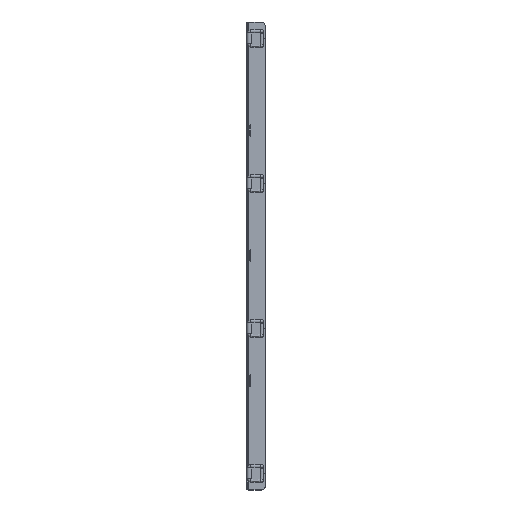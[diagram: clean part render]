
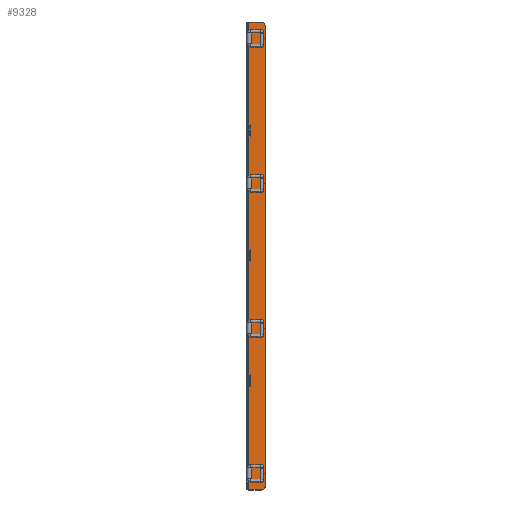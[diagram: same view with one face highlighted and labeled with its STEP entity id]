
A CAD part, top view. The second image highlights one B-rep face of the part: STEP entity #9328.
In plain terms, the highlighted free-form (B-spline) face has degree [1, 1] with [2, 2] control points.
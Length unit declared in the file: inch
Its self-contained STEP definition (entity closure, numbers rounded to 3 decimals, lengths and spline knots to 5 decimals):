
#8486=CARTESIAN_POINT('V127',(73.63562,98.20377,
   -23.57341));
#8487=VERTEX_POINT('V127',#8486);
#8488=CARTESIAN_POINT('E187',(73.63562,98.20377,
   -23.57341));
#8489=CARTESIAN_POINT('E187',(73.63562,98.31202,
   -23.57341));
#8490=CARTESIAN_POINT('E187',(73.72937,98.2579,
   -23.57341));
#8491=CARTESIAN_POINT('E187',(73.82312,98.20377,
   -23.57341));
#8492=CARTESIAN_POINT('E187',(73.72937,98.14964,
   -23.57341));
#8493=CARTESIAN_POINT('E187',(73.63562,98.09552,
   -23.57341));
#8494=CARTESIAN_POINT('E187',(73.63562,98.20377,
   -23.57341));
#8502=(BOUNDED_CURVE()B_SPLINE_CURVE(2,(#8488,#8489,#8490,#8491,
   #8492,#8493,#8494),.CIRCULAR_ARC.,.T.,.U.)
   B_SPLINE_CURVE_WITH_KNOTS((3,2,2,3),(0.0,0.33333,
   0.66667,1.0),.UNSPECIFIED.)CURVE()
   GEOMETRIC_REPRESENTATION_ITEM()RATIONAL_B_SPLINE_CURVE((1.0,
   0.5,1.0,0.5,1.0,0.5,1.0)
   )REPRESENTATION_ITEM('E187'));
#8503=EDGE_CURVE('E187',#8487,#8487,#8502,.T.);
#8564=CARTESIAN_POINT('V128',(73.63562,88.28677,
   -23.57341));
#8565=VERTEX_POINT('V128',#8564);
#8566=CARTESIAN_POINT('E188',(73.63562,88.28677,
   -23.57341));
#8567=CARTESIAN_POINT('E188',(73.63562,88.39502,
   -23.57341));
#8568=CARTESIAN_POINT('E188',(73.72937,88.3409,
   -23.57341));
#8569=CARTESIAN_POINT('E188',(73.82312,88.28677,
   -23.57341));
#8570=CARTESIAN_POINT('E188',(73.72937,88.23264,
   -23.57341));
#8571=CARTESIAN_POINT('E188',(73.63562,88.17852,
   -23.57341));
#8572=CARTESIAN_POINT('E188',(73.63562,88.28677,
   -23.57341));
#8580=(BOUNDED_CURVE()B_SPLINE_CURVE(2,(#8566,#8567,#8568,#8569,
   #8570,#8571,#8572),.CIRCULAR_ARC.,.T.,.U.)
   B_SPLINE_CURVE_WITH_KNOTS((3,2,2,3),(0.0,0.33333,
   0.66667,1.0),.UNSPECIFIED.)CURVE()
   GEOMETRIC_REPRESENTATION_ITEM()RATIONAL_B_SPLINE_CURVE((1.0,
   0.5,1.0,0.5,1.0,0.5,1.0)
   )REPRESENTATION_ITEM('E188'));
#8581=EDGE_CURVE('E188',#8565,#8565,#8580,.T.);
#8642=CARTESIAN_POINT('V129',(73.63562,78.36977,
   -23.57341));
#8643=VERTEX_POINT('V129',#8642);
#8644=CARTESIAN_POINT('E189',(73.63562,78.36977,
   -23.57341));
#8645=CARTESIAN_POINT('E189',(73.63562,78.47802,
   -23.57341));
#8646=CARTESIAN_POINT('E189',(73.72937,78.4239,
   -23.57341));
#8647=CARTESIAN_POINT('E189',(73.82312,78.36977,
   -23.57341));
#8648=CARTESIAN_POINT('E189',(73.72937,78.31564,
   -23.57341));
#8649=CARTESIAN_POINT('E189',(73.63562,78.26152,
   -23.57341));
#8650=CARTESIAN_POINT('E189',(73.63562,78.36977,
   -23.57341));
#8658=(BOUNDED_CURVE()B_SPLINE_CURVE(2,(#8644,#8645,#8646,#8647,
   #8648,#8649,#8650),.CIRCULAR_ARC.,.T.,.U.)
   B_SPLINE_CURVE_WITH_KNOTS((3,2,2,3),(0.0,0.33333,
   0.66667,1.0),.UNSPECIFIED.)CURVE()
   GEOMETRIC_REPRESENTATION_ITEM()RATIONAL_B_SPLINE_CURVE((1.0,
   0.5,1.0,0.5,1.0,0.5,1.0)
   )REPRESENTATION_ITEM('E189'));
#8659=EDGE_CURVE('E189',#8643,#8643,#8658,.T.);
#8720=CARTESIAN_POINT('V130',(73.63562,68.45277,
   -23.57341));
#8721=VERTEX_POINT('V130',#8720);
#8722=CARTESIAN_POINT('E190',(73.63562,68.45277,
   -23.57341));
#8723=CARTESIAN_POINT('E190',(73.63562,68.56102,
   -23.57341));
#8724=CARTESIAN_POINT('E190',(73.72937,68.5069,
   -23.57341));
#8725=CARTESIAN_POINT('E190',(73.82312,68.45277,
   -23.57341));
#8726=CARTESIAN_POINT('E190',(73.72937,68.39864,
   -23.57341));
#8727=CARTESIAN_POINT('E190',(73.63562,68.34452,
   -23.57341));
#8728=CARTESIAN_POINT('E190',(73.63562,68.45277,
   -23.57341));
#8736=(BOUNDED_CURVE()B_SPLINE_CURVE(2,(#8722,#8723,#8724,#8725,
   #8726,#8727,#8728),.CIRCULAR_ARC.,.T.,.U.)
   B_SPLINE_CURVE_WITH_KNOTS((3,2,2,3),(0.0,0.33333,
   0.66667,1.0),.UNSPECIFIED.)CURVE()
   GEOMETRIC_REPRESENTATION_ITEM()RATIONAL_B_SPLINE_CURVE((1.0,
   0.5,1.0,0.5,1.0,0.5,1.0)
   )REPRESENTATION_ITEM('E190'));
#8737=EDGE_CURVE('E190',#8721,#8721,#8736,.T.);
#8770=CARTESIAN_POINT('V124',(72.69312,67.32777,
   -23.57341));
#8771=VERTEX_POINT('V124',#8770);
#8785=CARTESIAN_POINT('V123',(72.69312,99.32777,
   -23.57341));
#8786=VERTEX_POINT('V123',#8785);
#8787=CARTESIAN_POINT('E183',(72.69312,99.32777,
   -23.57341));
#8788=CARTESIAN_POINT('E183',(72.69312,67.32777,
   -23.57341));
#8789=QUASI_UNIFORM_CURVE('E183',1,(#8787,#8788),.POLYLINE_FORM.,.F.,
   .U.);
#8790=EDGE_CURVE('E183',#8786,#8771,#8789,.T.);
#9125=CARTESIAN_POINT('V122',(73.57812,99.32777,
   -23.57341));
#9126=VERTEX_POINT('V122',#9125);
#9146=CARTESIAN_POINT('E182',(73.57812,99.32777,
   -23.57341));
#9147=CARTESIAN_POINT('E182',(72.69312,99.32777,
   -23.57341));
#9148=B_SPLINE_CURVE_WITH_KNOTS('E182',1,(#9146,#9147),
   .POLYLINE_FORM.,.F.,.U.,(2,2),(0.25024,
   0.94643),.UNSPECIFIED.);
#9149=EDGE_CURVE('E182',#9126,#8786,#9148,.T.);
#9161=CARTESIAN_POINT('V121',(73.82812,99.07777,
   -23.57341));
#9162=VERTEX_POINT('V121',#9161);
#9168=CARTESIAN_POINT('V126',(73.82812,67.57777,
   -23.57341));
#9169=VERTEX_POINT('V126',#9168);
#9170=CARTESIAN_POINT('E186',(73.82812,67.57777,
   -23.57341));
#9171=CARTESIAN_POINT('E186',(73.82812,99.07777,
   -23.57341));
#9172=B_SPLINE_CURVE_WITH_KNOTS('E186',1,(#9170,#9171),
   .POLYLINE_FORM.,.F.,.U.,(2,2),(1.70363,
   26.43372),.UNSPECIFIED.);
#9173=EDGE_CURVE('E186',#9169,#9162,#9172,.T.);
#9268=CARTESIAN_POINT('E181',(73.82812,99.07777,
   -23.57341));
#9269=CARTESIAN_POINT('E181',(73.82812,99.32777,
   -23.57341));
#9270=CARTESIAN_POINT('E181',(73.57812,99.32777,
   -23.57341));
#9278=(BOUNDED_CURVE()B_SPLINE_CURVE(2,(#9268,#9269,#9270),
   .CIRCULAR_ARC.,.F.,.U.)B_SPLINE_CURVE_WITH_KNOTS((3,3),(0.0,
   7.13998),.UNSPECIFIED.)CURVE()
   GEOMETRIC_REPRESENTATION_ITEM()RATIONAL_B_SPLINE_CURVE((1.0,
   0.707,1.0))REPRESENTATION_ITEM('E181'));
#9279=EDGE_CURVE('E181',#9162,#9126,#9278,.T.);
#9285=CARTESIAN_POINT('F61',(73.89622,101.24777,
   -23.57341));
#9286=CARTESIAN_POINT('F61',(72.62502,101.24777,
   -23.57341));
#9287=CARTESIAN_POINT('F61',(73.89622,65.40777,
   -23.57341));
#9288=CARTESIAN_POINT('F61',(72.62502,65.40777,
   -23.57341));
#9289=B_SPLINE_SURFACE_WITH_KNOTS('F61',1,1,((#9285,#9287),(#9286,
   #9288)),.PLANE_SURF.,.F.,.F.,.U.,(2,2),(2,2),(0.0,1.0),(0.0,
   28.13735),.UNSPECIFIED.);
#9290=ORIENTED_EDGE('E181',*,*,#9279,.T.);
#9291=ORIENTED_EDGE('F102',*,*,#9149,.T.);
#9292=ORIENTED_EDGE('E183',*,*,#8790,.T.);
#9293=CARTESIAN_POINT('V125',(73.57812,67.32777,
   -23.57341));
#9294=VERTEX_POINT('V125',#9293);
#9295=CARTESIAN_POINT('E184',(72.69312,67.32777,
   -23.57341));
#9296=CARTESIAN_POINT('E184',(73.57812,67.32777,
   -23.57341));
#9297=B_SPLINE_CURVE_WITH_KNOTS('E184',1,(#9295,#9296),
   .POLYLINE_FORM.,.F.,.U.,(2,2),(0.09643,
   0.79262),.UNSPECIFIED.);
#9298=EDGE_CURVE('E184',#8771,#9294,#9297,.T.);
#9299=ORIENTED_EDGE('E184',*,*,#9298,.T.);
#9300=CARTESIAN_POINT('E185',(73.57812,67.32777,
   -23.57341));
#9301=CARTESIAN_POINT('E185',(73.82812,67.32777,
   -23.57341));
#9302=CARTESIAN_POINT('E185',(73.82812,67.57777,
   -23.57341));
#9310=(BOUNDED_CURVE()B_SPLINE_CURVE(2,(#9300,#9301,#9302),
   .CIRCULAR_ARC.,.F.,.U.)B_SPLINE_CURVE_WITH_KNOTS((3,3),(0.0,
   7.13998),.UNSPECIFIED.)CURVE()
   GEOMETRIC_REPRESENTATION_ITEM()RATIONAL_B_SPLINE_CURVE((1.0,
   0.707,1.0))REPRESENTATION_ITEM('E185'));
#9311=EDGE_CURVE('E185',#9294,#9169,#9310,.T.);
#9312=ORIENTED_EDGE('E185',*,*,#9311,.T.);
#9313=ORIENTED_EDGE('E186',*,*,#9173,.T.);
#9314=EDGE_LOOP('F61',(#9290,#9291,#9292,#9299,#9312,#9313));
#9315=FACE_OUTER_BOUND('F61',#9314,.T.);
#9316=ORIENTED_EDGE('E190',*,*,#8737,.T.);
#9317=EDGE_LOOP('F61',(#9316));
#9318=FACE_BOUND('F61',#9317,.T.);
#9319=ORIENTED_EDGE('E189',*,*,#8659,.T.);
#9320=EDGE_LOOP('F61',(#9319));
#9321=FACE_BOUND('F61',#9320,.T.);
#9322=ORIENTED_EDGE('E188',*,*,#8581,.T.);
#9323=EDGE_LOOP('F61',(#9322));
#9324=FACE_BOUND('F61',#9323,.T.);
#9325=ORIENTED_EDGE('E187',*,*,#8503,.T.);
#9326=EDGE_LOOP('F61',(#9325));
#9327=FACE_BOUND('F61',#9326,.T.);
#9328=ADVANCED_FACE('F61',(#9315,#9318,#9321,#9324,#9327),#9289,.T.
   );
